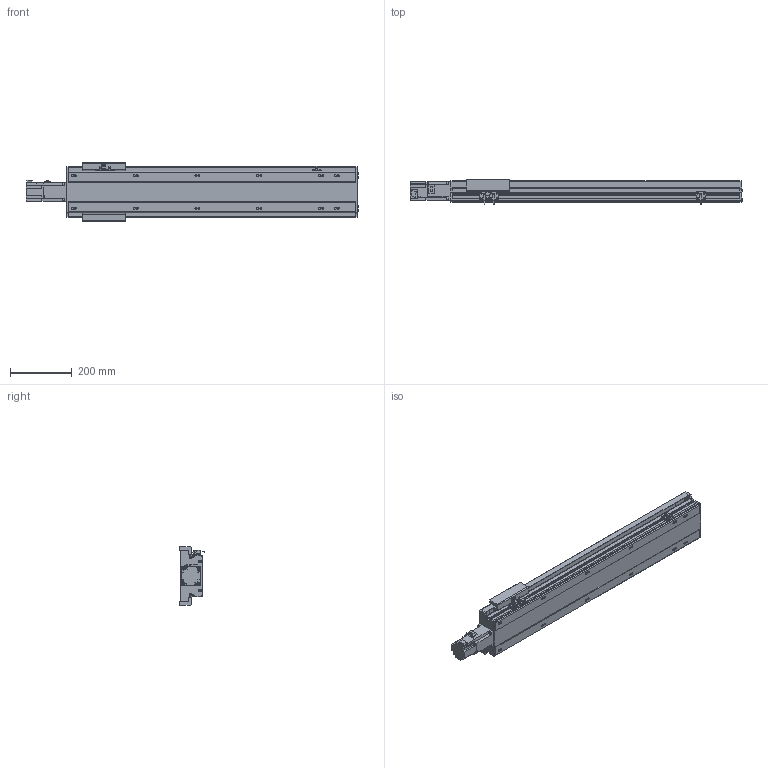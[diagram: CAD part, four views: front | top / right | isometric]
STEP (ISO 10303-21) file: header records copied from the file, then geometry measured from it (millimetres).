
FILE_DESCRIPTION(/* description */ ('STEP AP214'),/* implementation_level */ '2;1');
FILE_NAME(/* name */ 'PSM140-L10-S700-BC-T40-C1-N(0)',/* time_stamp */ '2022-06-13T03:19:32+02:00',/* author */ ('License CC BY-ND 4.0'),/* organization */ ('CADENAS'),/* preprocessor_version */ 'ST-DEVELOPER v18.102',/* originating_system */ 'PARTsolutions',/* authorisation */ ' ');
FILE_SCHEMA (('AUTOMOTIVE_DESIGN {1 0 10303 214 3 1 1}'));
Length unit declared in the file: millimetre
Products named in the file (7): PSM140-L10-S700-BC-T40-C1-N(0); PSM-Sensor; PSM140-S700-942.5; T40-p1; PSM140_body3; PSM140-S700_body1; PSM140-L10-S700-BC-T40-C1-N(0)_dummy
Assembly tree (10 placements, depth 2):
  PSM140-L10-S700-BC-T40-C1-N(0)
    PSM-Sensor  x3
    PSM140-S700-942.5  x3
    T40-p1
    PSM140_body3
    PSM140-S700_body1
    PSM140-L10-S700-BC-T40-C1-N(0)_dummy
Bounding box: 1073.7 x 81.3 x 190 mm (x, y, z)
Volume: 4601819.8 mm3; surface area: 980558.6 mm2
Topology: 9 solids, 9 shells, 960 faces, 2541 edges, 1652 vertices
Faces by surface type: plane 628, cylinder 258, cone 60, torus 14
Full cylindrical faces by diameter (mm): 2.8 x3, 4.5 x12, 4.6 x3, 4.917 x20, 5.5 x7, 5.7 x6, 6 x2, 7 x20, 8 x8, 8.5 x4, 10.5 x12, 14 x1, 50 x1
Entity records: 24517 total; most frequent: CARTESIAN_POINT 4410, DIRECTION 4133, ORIENTED_EDGE 3890, EDGE_CURVE 1945, AXIS2_PLACEMENT_3D 1383, LINE 1367, VECTOR 1367, VERTEX_POINT 1366
